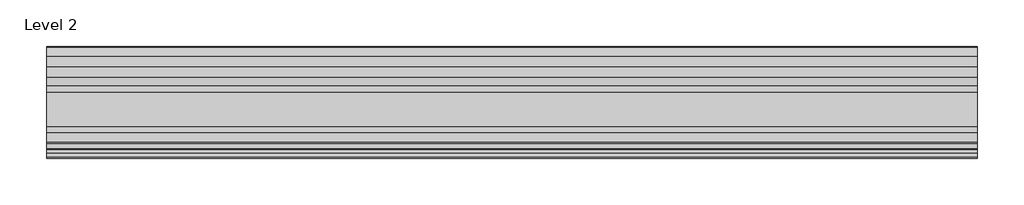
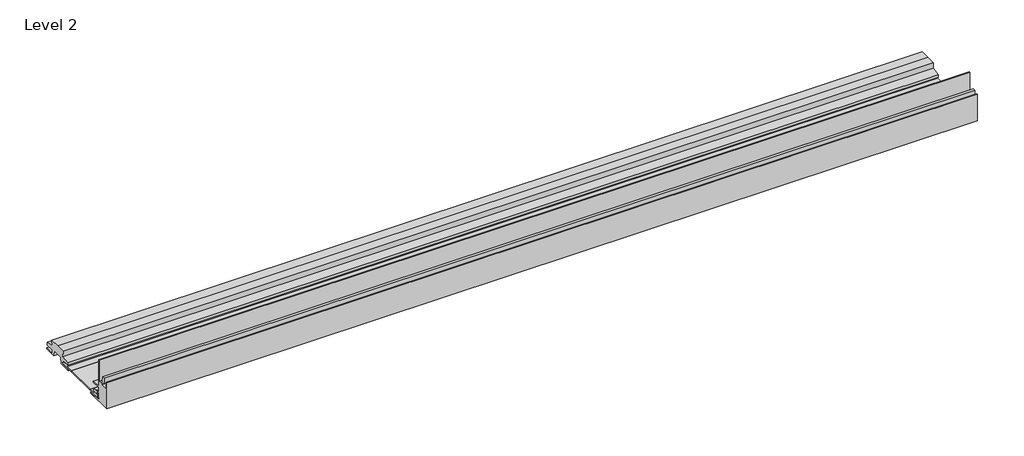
# One storey: 2 members, 1 plate.
"""IFC4 building model written with IfcOpenShell, lengths in millimetres."""

from ifc_helpers import new_model, si_unit, origin, place, context, project, spatial, transform, mapped, element, save
from components import rectangular_mullion_quickpanel_reveal_perforated_soffit_d645d22b, rectangular_mullion_quickpanel_reveal_soffit_termination_9aabd70b, quickpanel_perforated_soffit_strip_qp_25s_perforated_soffit_1afd152b

model = new_model("IFC4")

# Units and contexts
model_context = context("Model", 3, world=origin())
ifc_project = project(units=[si_unit("LENGTHUNIT", "METRE", prefix="MILLI")], contexts=[model_context])

# Site, building, storey
site = spatial("IfcSite", under=ifc_project)
building = spatial("IfcBuilding", under=site)
storey = spatial("IfcBuildingStorey", under=building, Name="Level 2", Elevation=3048.0)

# Members
placement = place(None, origin())
rectangular_mullion_quickpanel_reveal_perforated_soffit_shape = rectangular_mullion_quickpanel_reveal_perforated_soffit_d645d22b(model_context)
element("IfcMember", 1, ObjectType="Rectangular Mullion : QuickPanel-Reveal_Perforated-Soffit-Return", at=placement, inside=storey, context=model_context, shape_type="MappedRepresentation", body=[
    mapped(rectangular_mullion_quickpanel_reveal_perforated_soffit_shape, transform((-497.6661056, -3140.5684707, 3048.0), x_axis=(0.0, -1.0, 0.0), y_axis=(0.0, 0.0, -1.0), z_axis=(1.0, 0.0, 0.0))),
])
rectangular_mullion_quickpanel_reveal_soffit_termination_shape = rectangular_mullion_quickpanel_reveal_soffit_termination_9aabd70b(model_context)
element("IfcMember", 2, ObjectType="Rectangular Mullion : QuickPanel-Reveal_Soffit-Termination", at=placement, inside=storey, context=model_context, shape_type="MappedRepresentation", body=[
    mapped(rectangular_mullion_quickpanel_reveal_soffit_termination_shape, transform((-1716.8661056, -2993.9152207, 3048.0), x_axis=(0.0, 1.0, 0.0), y_axis=(0.0, 0.0, -1.0), z_axis=(-1.0, 0.0, 0.0))),
])

# Plate
quickpanel_perforated_soffit_strip_qp_25s_perforated_soffit_shape = quickpanel_perforated_soffit_strip_qp_25s_perforated_soffit_1afd152b(model_context)
element("IfcPlate", 3, ObjectType="QuickPanel_Perforated-Soffit-Strip : QP 25S - Perforated Soffit Strip", at=placement, inside=storey, context=model_context, shape_type="MappedRepresentation", body=[
    mapped(quickpanel_perforated_soffit_strip_qp_25s_perforated_soffit_shape, transform((-1107.2661056, -3120.1525143, 3048.0), x_axis=(1.0, 0.0, 0.0), y_axis=(0.0, 0.0, -1.0), z_axis=(0.0, 1.0, 0.0))),
])

save(model, "model.ifc")
